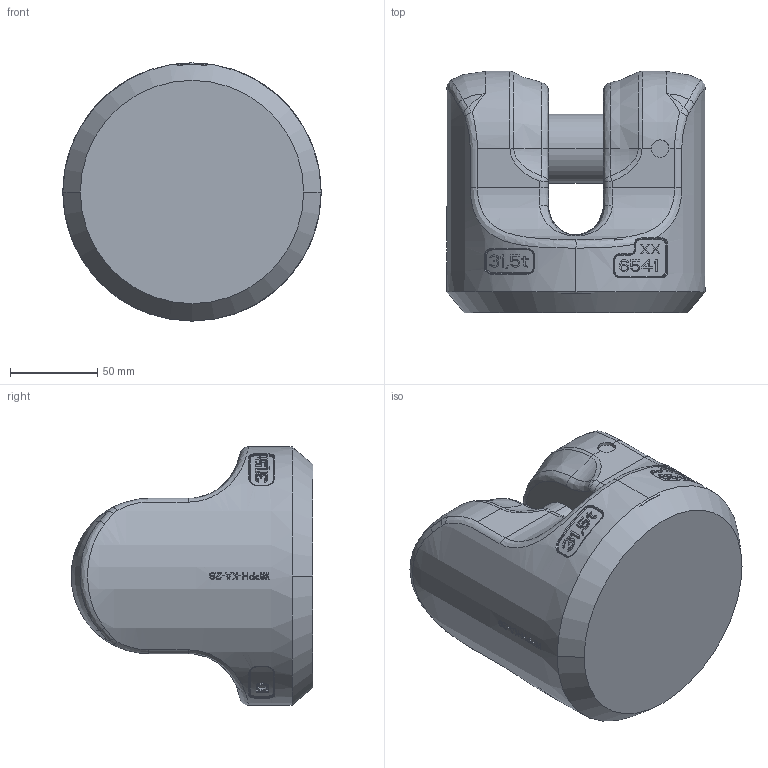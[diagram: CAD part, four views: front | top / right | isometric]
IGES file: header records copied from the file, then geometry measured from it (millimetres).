
Start section:  PTC IGES file: WPPH-KA-28_7903438_M34294-P-40.igs
Global section: file name: WPPH-KA-28_7903438_M34294-P-40.igs; native system: Pro/ENGINEER by Parametric Technology Corporation; preprocessor: 2010140; author: Andreas.Wendler; organization: Unknown; date: 20151028.143339; units: millimetre
Bounding box: 148 x 138.5 x 148 mm (x, y, z)
Volume: 1578888.7 mm3; surface area: 102182.2 mm2
Topology: 1 solids, 2 shells, 857 faces, 2390 edges, 1614 vertices
Faces by surface type: bspline 726, revolution 131
